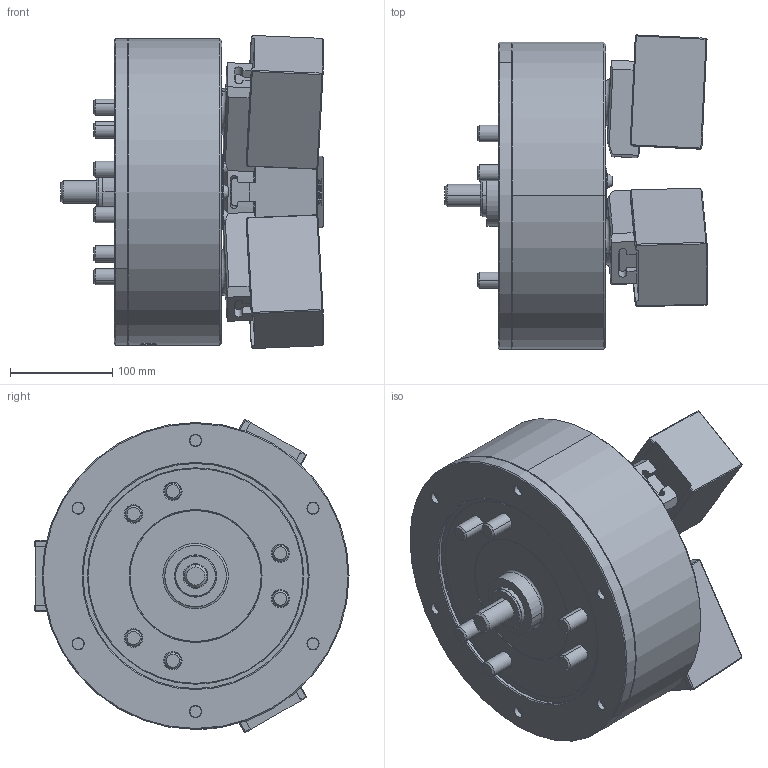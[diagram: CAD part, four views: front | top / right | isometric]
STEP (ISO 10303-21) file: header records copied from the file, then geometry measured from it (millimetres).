
FILE_DESCRIPTION (( 'STEP AP214' ), '1' );
FILE_NAME ('PW-12_UC_ID.STEP', '2019-10-08T06:51:31', ( '' ), ( '' ), 'SwSTEP 2.0', 'SolidWorks 2017', '' );
FILE_SCHEMA (( 'AUTOMOTIVE_DESIGN' ));
Length unit declared in the file: millimetre
Products named in the file (5): 結合_ID; 0030116025; 61P420193; 61P323264; PW-12_UC_ID
Assembly tree (13 placements, depth 2):
  PW-12_UC_ID
    61P323264  x3
    61P420193  x3
    0030116025  x6
    結合_ID
Bounding box: 256.15 x 307.01 x 306 mm (x, y, z)
Volume: 9038054.3 mm3; surface area: 604194.2 mm2
Topology: 13 solids, 14 shells, 1761 faces, 4258 edges, 2647 vertices
Faces by surface type: plane 903, cone 326, cylinder 281, bspline 185, torus 60, sphere 6
Entity records: 51571 total; most frequent: CARTESIAN_POINT 18021, ORIENTED_EDGE 7192, DIRECTION 6327, EDGE_CURVE 3596, VERTEX_POINT 2272, AXIS2_PLACEMENT_3D 2156, VECTOR 2015, LINE 2015
